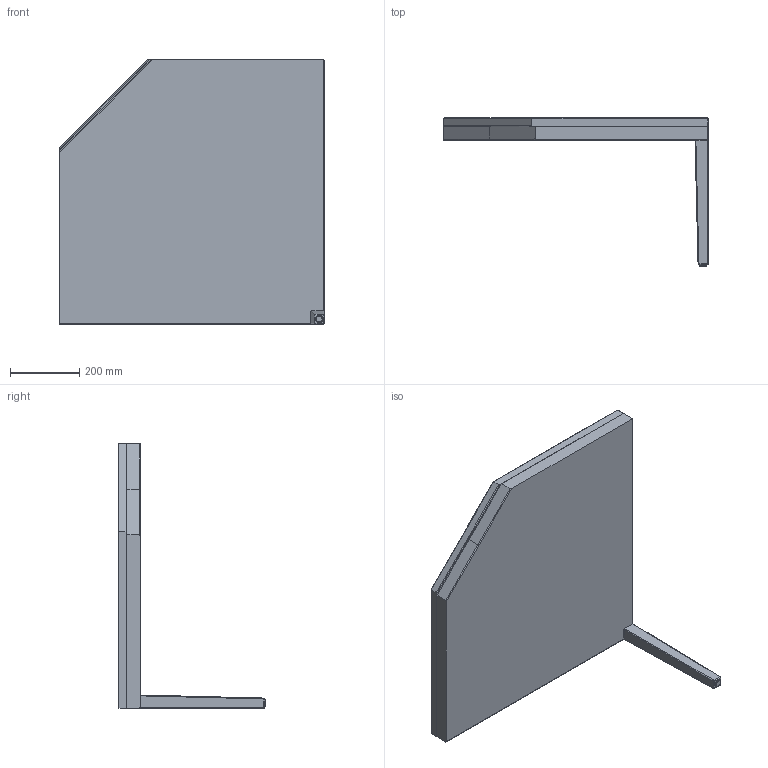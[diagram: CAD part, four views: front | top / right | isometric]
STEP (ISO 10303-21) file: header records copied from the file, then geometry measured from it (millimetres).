
FILE_DESCRIPTION(/* description */ (''),/* implementation_level */ '2;1');
FILE_NAME(/* name */ 'Geo_T3030CT.step',/* time_stamp */ '2026-03-20T13:58:47-07:00',/* author */ (''),/* organization */ (''),/* preprocessor_version */ 'ST-DEVELOPER v20.1',/* originating_system */ 'Autodesk Translation Framework v14.24.0.0',/* authorisation */ '');
FILE_SCHEMA (('AUTOMOTIVE_DESIGN { 1 0 10303 214 3 1 1 }'));
Length unit declared in the file: inch
Products named in the file (1): Geo Tables_\
Bounding box: 762 x 426.08 x 762 mm (x, y, z)
Volume: 35136726.5 mm3; surface area: 2414150.8 mm2
Topology: 3 solids, 3 shells, 51 faces, 112 edges, 67 vertices
Faces by surface type: cylinder 21, plane 21, sphere 6, bspline 1, torus 1, cone 1
Entity records: 1508 total; most frequent: CARTESIAN_POINT 331, DIRECTION 253, ORIENTED_EDGE 224, EDGE_CURVE 112, AXIS2_PLACEMENT_3D 93, LINE 67, VECTOR 67, VERTEX_POINT 67
